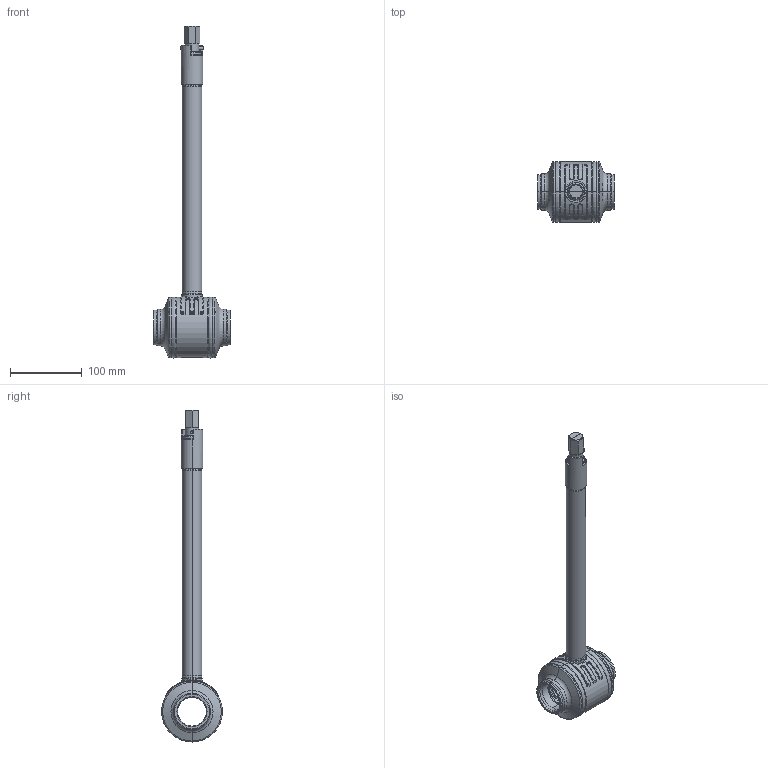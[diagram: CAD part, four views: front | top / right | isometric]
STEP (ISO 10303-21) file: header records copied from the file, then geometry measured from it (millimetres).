
FILE_DESCRIPTION((''),'2;1');
FILE_NAME('WSK21640_KHMO_40-U-KU_SW0001','2022-07-04T11:15:12',('jeitlers'),('KLINGER'),'CREO PARAMETRIC BY PTC INC, 2020184','CREO PARAMETRIC BY PTC INC, 2020184','');
FILE_SCHEMA(('AUTOMOTIVE_DESIGN { 1 0 10303 214 1 1 1 1 }'));
Length unit declared in the file: millimetre
Products named in the file (1): WSK21640_KHMO_40-U-KU_SW0001
Bounding box: 106 x 84.45 x 461.22 mm (x, y, z)
Volume: 448792.3 mm3; surface area: 166867.3 mm2
Topology: 4 solids, 4 shells, 533 faces, 1169 edges, 674 vertices
Faces by surface type: cylinder 173, torus 134, plane 98, cone 78, bspline 44, sphere 6
Entity records: 25419 total; most frequent: CARTESIAN_POINT 12686, DIRECTION 2692, ORIENTED_EDGE 2330, AXIS2_PLACEMENT_3D 1172, EDGE_CURVE 1165, VERTEX_POINT 674, CIRCLE 673, EDGE_LOOP 583
